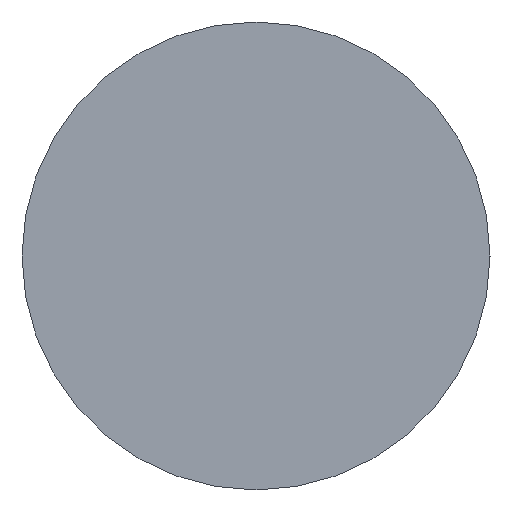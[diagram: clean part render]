
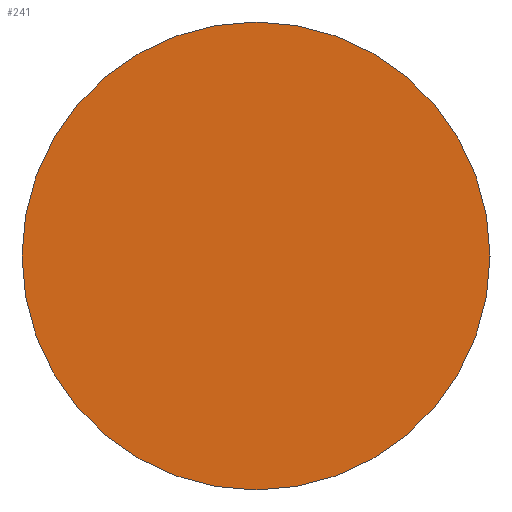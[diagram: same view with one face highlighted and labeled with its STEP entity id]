
A CAD part, left-side view. The second image highlights one B-rep face of the part: STEP entity #241.
In plain terms, the highlighted planar face has unit normal (-1, 0, 0).
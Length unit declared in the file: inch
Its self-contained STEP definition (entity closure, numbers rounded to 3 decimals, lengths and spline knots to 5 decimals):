
#14 = AXIS2_PLACEMENT_3D ( 'NONE', #353, #286, #83 ) ;
#30 = ORIENTED_EDGE ( 'NONE', *, *, #213, .T. ) ;
#32 = DIRECTION ( 'NONE',  ( 1., 0., 0. ) ) ;
#59 = PLANE ( 'NONE',  #318 ) ;
#83 = DIRECTION ( 'NONE',  ( 0., 0., 1. ) ) ;
#86 = VERTEX_POINT ( 'NONE', #165 ) ;
#97 = EDGE_LOOP ( 'NONE', ( #209, #30 ) ) ;
#124 = DIRECTION ( 'NONE',  ( 0., 0., 1. ) ) ;
#165 = CARTESIAN_POINT ( 'NONE',  ( -3., 0., -0.375 ) ) ;
#185 = DIRECTION ( 'NONE',  ( -1., 0., 0. ) ) ;
#190 = CARTESIAN_POINT ( 'NONE',  ( -3., 0., 0.375 ) ) ;
#192 = CIRCLE ( 'NONE', #14, 0.375 ) ;
#196 = EDGE_CURVE ( 'NONE', #355, #86, #288, .T. ) ;
#208 = CARTESIAN_POINT ( 'NONE',  ( -3., 0.375, 0. ) ) ;
#209 = ORIENTED_EDGE ( 'NONE', *, *, #196, .T. ) ;
#213 = EDGE_CURVE ( 'NONE', #86, #355, #192, .T. ) ;
#229 = CARTESIAN_POINT ( 'NONE',  ( -3., 0., 0. ) ) ;
#241 = ADVANCED_FACE ( 'NONE', ( #308 ), #59, .F. ) ;
#286 = DIRECTION ( 'NONE',  ( -1., 0., 0. ) ) ;
#288 = CIRCLE ( 'NONE', #294, 0.375 ) ;
#294 = AXIS2_PLACEMENT_3D ( 'NONE', #229, #185, #124 ) ;
#308 = FACE_OUTER_BOUND ( 'NONE', #97, .T. ) ;
#318 = AXIS2_PLACEMENT_3D ( 'NONE', #208, #32, #324 ) ;
#324 = DIRECTION ( 'NONE',  ( 0., 0., -1. ) ) ;
#353 = CARTESIAN_POINT ( 'NONE',  ( -3., 0., 0. ) ) ;
#355 = VERTEX_POINT ( 'NONE', #190 ) ;
